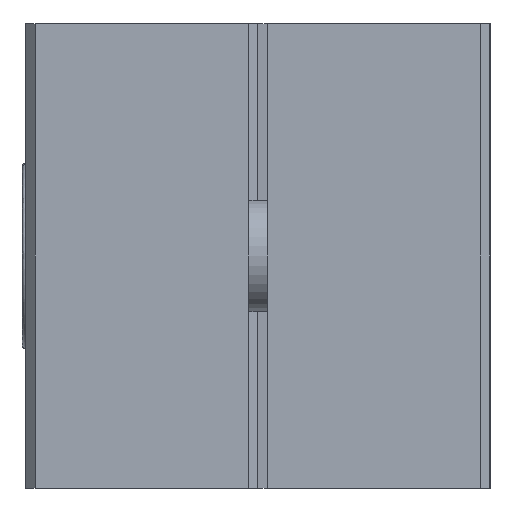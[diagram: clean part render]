
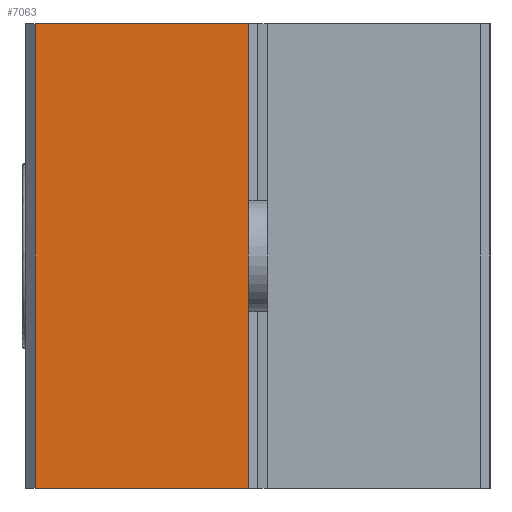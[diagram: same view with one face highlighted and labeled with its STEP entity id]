
A CAD part, left-side view. The second image highlights one B-rep face of the part: STEP entity #7063.
In plain terms, the highlighted planar face has unit normal (-1, 0, 0).
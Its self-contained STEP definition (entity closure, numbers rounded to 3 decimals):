
#638 = CARTESIAN_POINT ( 'NONE',  ( -155.136, -10.21, 59.414 ) ) ;
#2521 = VERTEX_POINT ( 'NONE', #7257 ) ;
#2620 = VECTOR ( 'NONE', #14484, 1000. ) ;
#2654 = VERTEX_POINT ( 'NONE', #10658 ) ;
#4160 = EDGE_CURVE ( 'NONE', #2521, #5661, #6747, .T. ) ;
#5344 = DIRECTION ( 'NONE',  ( 0., 0., 1. ) ) ;
#5661 = VERTEX_POINT ( 'NONE', #10594 ) ;
#5986 = DIRECTION ( 'NONE',  ( 1., 0., 0. ) ) ;
#6747 = LINE ( 'NONE', #638, #2620 ) ;
#7063 = ADVANCED_FACE ( 'NONE', ( #8501 ), #14179, .F. ) ;
#7257 = CARTESIAN_POINT ( 'NONE',  ( -155.136, -9.71, 59.414 ) ) ;
#7427 = ORIENTED_EDGE ( 'NONE', *, *, #4160, .F. ) ;
#7975 = ORIENTED_EDGE ( 'NONE', *, *, #12098, .T. ) ;
#8012 = ORIENTED_EDGE ( 'NONE', *, *, #8854, .T. ) ;
#8228 = VECTOR ( 'NONE', #9801, 1000. ) ;
#8403 = VECTOR ( 'NONE', #17117, 1000. ) ;
#8405 = VERTEX_POINT ( 'NONE', #16706 ) ;
#8501 = FACE_OUTER_BOUND ( 'NONE', #15638, .T. ) ;
#8750 = EDGE_CURVE ( 'NONE', #5661, #2654, #9735, .T. ) ;
#8854 = EDGE_CURVE ( 'NONE', #8405, #2654, #15517, .T. ) ;
#9025 = AXIS2_PLACEMENT_3D ( 'NONE', #14248, #5986, #15602 ) ;
#9735 = LINE ( 'NONE', #15032, #16619 ) ;
#9801 = DIRECTION ( 'NONE',  ( 0., 1., 0. ) ) ;
#10594 = CARTESIAN_POINT ( 'NONE',  ( -155.136, 1.79, 59.414 ) ) ;
#10658 = CARTESIAN_POINT ( 'NONE',  ( -155.136, 1.79, 84.414 ) ) ;
#12078 = LINE ( 'NONE', #15748, #8403 ) ;
#12098 = EDGE_CURVE ( 'NONE', #2521, #8405, #12078, .T. ) ;
#14031 = CARTESIAN_POINT ( 'NONE',  ( -155.136, -10.21, 84.414 ) ) ;
#14179 = PLANE ( 'NONE',  #9025 ) ;
#14248 = CARTESIAN_POINT ( 'NONE',  ( -155.136, -9.71, 84.414 ) ) ;
#14484 = DIRECTION ( 'NONE',  ( 0., 1., 0. ) ) ;
#15032 = CARTESIAN_POINT ( 'NONE',  ( -155.136, 1.79, 71.914 ) ) ;
#15517 = LINE ( 'NONE', #14031, #8228 ) ;
#15602 = DIRECTION ( 'NONE',  ( 0., 0., -1. ) ) ;
#15638 = EDGE_LOOP ( 'NONE', ( #7427, #7975, #8012, #16868 ) ) ;
#15748 = CARTESIAN_POINT ( 'NONE',  ( -155.136, -9.71, 71.914 ) ) ;
#16619 = VECTOR ( 'NONE', #5344, 1000. ) ;
#16706 = CARTESIAN_POINT ( 'NONE',  ( -155.136, -9.71, 84.414 ) ) ;
#16868 = ORIENTED_EDGE ( 'NONE', *, *, #8750, .F. ) ;
#17117 = DIRECTION ( 'NONE',  ( 0., 0., 1. ) ) ;
